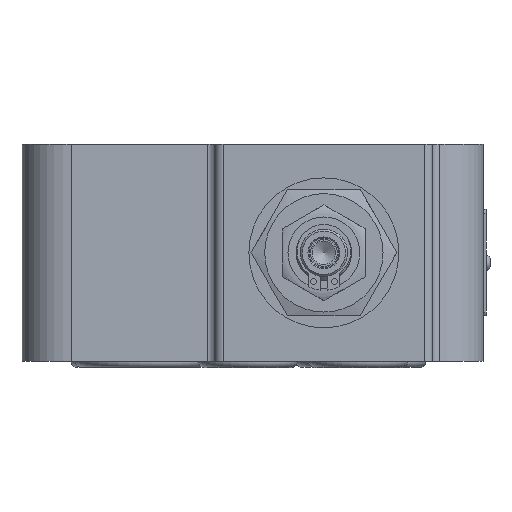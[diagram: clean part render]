
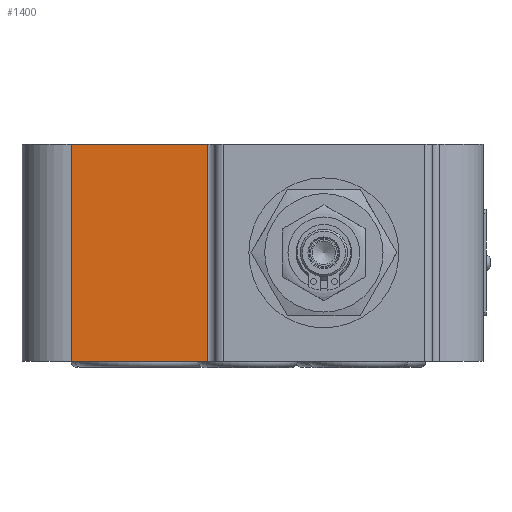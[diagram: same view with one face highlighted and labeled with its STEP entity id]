
A CAD part, left-side view. The second image highlights one B-rep face of the part: STEP entity #1400.
In plain terms, the highlighted planar face has unit normal (-1, 0, 0).
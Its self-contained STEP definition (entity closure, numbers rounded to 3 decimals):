
#220=LINE('',#6440,#400);
#221=LINE('',#6443,#401);
#222=LINE('',#6445,#402);
#223=LINE('',#6447,#403);
#400=VECTOR('',#5189,1.);
#401=VECTOR('',#5190,1.);
#402=VECTOR('',#5191,1.);
#403=VECTOR('',#5192,1.);
#977=FACE_OUTER_BOUND('',#2010,.T.);
#1144=PLANE('',#4608);
#1400=ADVANCED_FACE('',(#977),#1144,.F.);
#2010=EDGE_LOOP('',(#2493,#2494,#2495,#2496));
#2493=ORIENTED_EDGE('',*,*,#3879,.T.);
#2494=ORIENTED_EDGE('',*,*,#3880,.F.);
#2495=ORIENTED_EDGE('',*,*,#3881,.F.);
#2496=ORIENTED_EDGE('',*,*,#3882,.T.);
#3475=VERTEX_POINT('',#6441);
#3476=VERTEX_POINT('',#6442);
#3477=VERTEX_POINT('',#6444);
#3478=VERTEX_POINT('',#6446);
#3879=EDGE_CURVE('',#3475,#3476,#220,.T.);
#3880=EDGE_CURVE('',#3477,#3476,#221,.T.);
#3881=EDGE_CURVE('',#3478,#3477,#222,.T.);
#3882=EDGE_CURVE('',#3478,#3475,#223,.T.);
#4608=AXIS2_PLACEMENT_3D('',#6448,#5193,#5194);
#5189=DIRECTION('',(0.,-1.,0.));
#5190=DIRECTION('',(0.,0.,-1.));
#5191=DIRECTION('',(0.,-1.,0.));
#5192=DIRECTION('',(0.,0.,-1.));
#5193=DIRECTION('',(1.,0.,0.));
#5194=DIRECTION('',(0.,0.,1.));
#6440=CARTESIAN_POINT('',(-874.59,-361.354,31.11));
#6441=CARTESIAN_POINT('',(-874.59,-361.354,31.11));
#6442=CARTESIAN_POINT('',(-874.59,-395.854,31.11));
#6443=CARTESIAN_POINT('',(-874.59,-395.854,86.11));
#6444=CARTESIAN_POINT('',(-874.59,-395.854,86.11));
#6445=CARTESIAN_POINT('',(-874.59,-361.354,86.11));
#6446=CARTESIAN_POINT('',(-874.59,-361.354,86.11));
#6447=CARTESIAN_POINT('',(-874.59,-361.354,86.11));
#6448=CARTESIAN_POINT('',(-874.59,-361.354,86.11));
